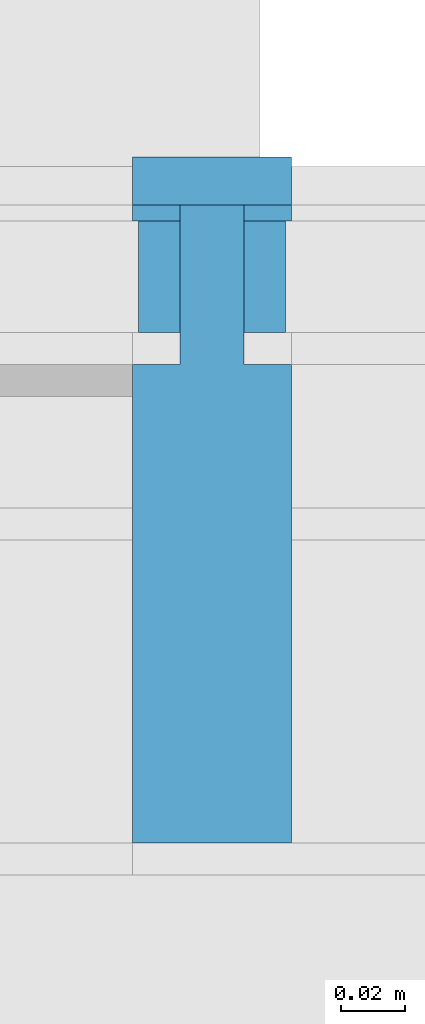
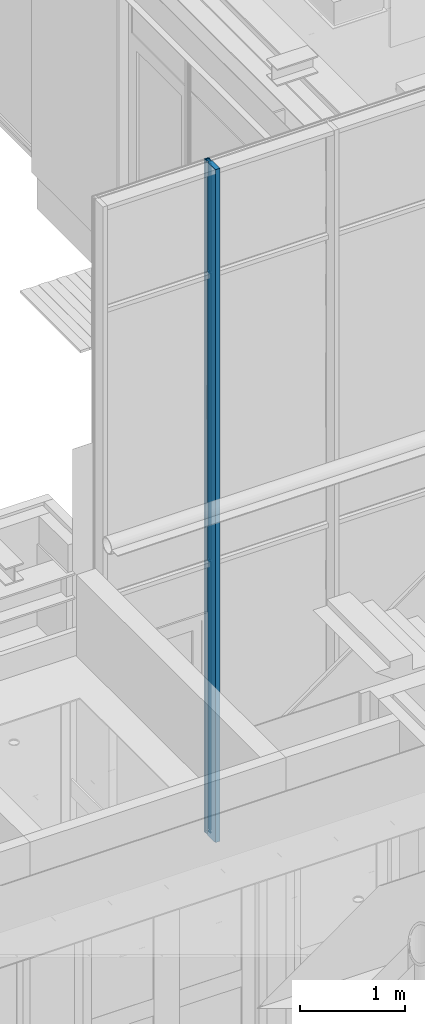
# One storey, part 98 of 347: 6 building element parts, 1 element without a shape of its own.
"""IFC2X3 building model written with IfcOpenShell, lengths in millimetres."""

from ifc_helpers import new_model, entity, si_unit, converted_unit, derived_unit, money_unit, direction, frame, origin_with_axes, place, context, subcontext, project, spatial, faceted_brep, material, type_object, element, aggregate, save


model = new_model("IFC2X3")

# Units and contexts
model_context = context("Model", 3, precision=0.01, world=origin_with_axes(), true_north=direction((0.0, 1.0)))
plan_context = context("Plan", 3, precision=0.01, world=origin_with_axes(), true_north=direction((0.0, 1.0)))
body_context = subcontext(model_context, "Body", "Model", "MODEL_VIEW")
ifc_project = project(units=[si_unit("LENGTHUNIT", "METRE", prefix="MILLI"), si_unit("AREAUNIT", "SQUARE_METRE"), si_unit("VOLUMEUNIT", "CUBIC_METRE"), converted_unit("PLANEANGLEUNIT", "DEGREE", entity("IfcPlaneAngleMeasure", 0.0174532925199), si_unit("PLANEANGLEUNIT", "RADIAN"), dimensions=[0, 0, 0, 0, 0, 0, 0]), money_unit("EUR"), converted_unit("TIMEUNIT", "Year", entity("IfcTimeMeasure", 31556926.0), si_unit("TIMEUNIT", "SECOND"), dimensions=[0, 0, 1, 0, 0, 0, 0]), si_unit("MASSUNIT", "GRAM", prefix="KILO"), si_unit("THERMODYNAMICTEMPERATUREUNIT", "DEGREE_CELSIUS"), si_unit("LUMINOUSINTENSITYUNIT", "LUMEN"), si_unit("ENERGYUNIT", "JOULE", prefix="MEGA"), derived_unit("THERMALCONDUCTANCEUNIT", [(si_unit("POWERUNIT", "WATT"), 1), (si_unit("LENGTHUNIT", "METRE"), -1), (si_unit("THERMODYNAMICTEMPERATUREUNIT", "KELVIN"), -1)]), derived_unit("SPECIFICHEATCAPACITYUNIT", [(si_unit("ENERGYUNIT", "JOULE"), 1), (si_unit("MASSUNIT", "GRAM", prefix="KILO"), -1), (si_unit("THERMODYNAMICTEMPERATUREUNIT", "KELVIN"), -1)]), derived_unit("MASSDENSITYUNIT", [(si_unit("MASSUNIT", "GRAM", prefix="KILO"), 1), (si_unit("VOLUMEUNIT", "CUBIC_METRE"), -1)])], contexts=[model_context, plan_context])

# Site, building, storey
site_placement = place(None, origin_with_axes())
site = spatial("IfcSite", under=ifc_project, at=site_placement, Name="Site", CompositionType="ELEMENT")
building_placement = place(site_placement, origin_with_axes())
building = spatial("IfcBuilding", under=site, at=building_placement, Name="Naam gebouw", CompositionType="ELEMENT")
storey_placement = place(building_placement, origin_with_axes())
storey = spatial("IfcBuildingStorey", under=building, at=storey_placement, Name="begane grond", CompositionType="ELEMENT", Elevation=0.0)

# Column, building element parts
column_type = type_object("IfcColumnType", Name="31 vliesgevelstijl 50 x 215", PredefinedType="COLUMN")
column_placement = place(storey_placement, frame((19890.0, 18400.0, 0.0), z_axis=(0.0, 0.0, 1.0), x_axis=(1.0, 0.0, 0.0)))
column = element("IfcColumn", 1, at=column_placement, inside=storey, type_object=column_type, Name="28_kolom ø 275mm", ObjectType="COLUMN")
ifc_material_1 = material(Name="Membraan - rubber")
building_element_part_1_placement = place(column_placement, origin_with_axes())
building_element_part_1 = element("IfcBuildingElementPart", 2, at=building_element_part_1_placement, material=ifc_material_1, Name="Membraan - rubber", context=body_context, shape_type="Brep", body=[
    faceted_brep([(-9.99999992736, 195.000000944, 7840.0), (-9.99999992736, 195.000000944, 7824.99999994), (-9.99999992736, 200.000001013, 7824.99999994), (-9.99999992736, 200.000000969, 7840.0), (-22.9999999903, 195.000000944, 7840.0), (-22.9999999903, 195.000000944, 7824.99999994), (-25.0, 195.000000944, 7824.99999994), (-25.0, 200.000001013, 7824.99999994), (-25.0, 200.000000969, 7840.0), (-25.0, 195.000000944, 7840.0)], [[[0, 1, 2, 3]], [[4, 5, 1, 0]], [[6, 7, 2, 1, 5]], [[3, 2, 7, 8]], [[3, 8, 9, 4, 0]], [[9, 6, 5, 4]], [[8, 7, 6, 9]]]),
    faceted_brep([(-25.0, 200.000000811, 14.9999997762), (-9.99999992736, 200.000000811, 14.9999997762), (-9.99999992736, 200.000000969, 0.0), (-25.0, 200.000000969, 0.0), (-9.99999992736, 195.000000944, 14.9999997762), (-25.0, 195.000000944, 14.9999997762), (-22.9999999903, 195.000000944, 14.9999997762), (-9.99999992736, 195.000000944, 0.0), (-22.9999999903, 195.000000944, 0.0), (-25.0, 195.000000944, 0.0)], [[[0, 1, 2, 3]], [[4, 1, 0, 5, 6]], [[1, 4, 7, 2]], [[8, 9, 3, 2, 7]], [[5, 0, 3, 9]], [[6, 5, 9, 8]], [[4, 6, 8, 7]]]),
    faceted_brep([(-25.0, 199.9999993, 3165.00000048), (-9.99999992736, 199.9999993, 3165.00000048), (-9.99999992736, 200.000000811, 35.0000005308), (-25.0, 200.000000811, 35.0000005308), (-9.99999992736, 195.000000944, 3165.00000048), (-25.0, 195.000000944, 3165.00000048), (-22.9999999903, 195.000000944, 3165.00000048), (-9.99999992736, 195.000000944, 35.0000005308), (-22.9999999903, 195.000000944, 35.0000005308), (-25.0, 195.000000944, 35.0000005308)], [[[0, 1, 2, 3]], [[4, 1, 0, 5, 6]], [[1, 4, 7, 2]], [[3, 2, 7, 8, 9]], [[5, 0, 3, 9]], [[6, 5, 9, 8]], [[4, 6, 8, 7]]]),
    faceted_brep([(-9.99999992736, 195.000000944, 6545.00000058), (-9.99999992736, 199.9999993, 6545.00000058), (-9.99999992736, 200.000001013, 7804.99999952), (-9.99999992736, 195.000000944, 7804.99999952), (-25.0, 199.9999993, 6545.00000058), (-22.9999999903, 195.000000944, 6545.00000058), (-25.0, 195.000000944, 6545.00000058), (-25.0, 200.000001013, 7804.99999952), (-25.0, 195.000000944, 7804.99999952), (-22.9999999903, 195.000000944, 7804.99999952)], [[[0, 1, 2, 3]], [[4, 1, 0, 5, 6]], [[1, 4, 7, 2]], [[3, 2, 7, 8, 9]], [[5, 0, 3, 9]], [[6, 5, 9, 8]], [[4, 6, 8, 7]]]),
    faceted_brep([(-9.99999992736, 195.000000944, 3185.00000058), (-9.99999992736, 199.9999993, 3185.00000058), (-9.99999992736, 199.9999993, 6525.00000048), (-9.99999992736, 195.000000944, 6525.00000048), (-25.0, 199.9999993, 3185.00000058), (-22.9999999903, 195.000000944, 3185.00000058), (-25.0, 195.000000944, 3185.00000058), (-25.0, 199.9999993, 6525.00000048), (-25.0, 195.000000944, 6525.00000048), (-22.9999999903, 195.000000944, 6525.00000048)], [[[0, 1, 2, 3]], [[4, 1, 0, 5, 6]], [[1, 4, 7, 2]], [[3, 2, 7, 8, 9]], [[5, 0, 3, 9]], [[6, 5, 9, 8]], [[4, 6, 8, 7]]]),
])
building_element_part_2_placement = place(column_placement, origin_with_axes())
building_element_part_2 = element("IfcBuildingElementPart", 3, at=building_element_part_2_placement, material=ifc_material_1, Name="Membraan - rubber", context=body_context, shape_type="Brep", body=[
    faceted_brep([(25.0000002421, 195.000000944, 7840.0), (25.0000002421, 195.000000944, 7824.99999994), (25.0000002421, 200.000001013, 7824.99999994), (25.0000002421, 200.000000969, 7840.0), (23.0000002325, 195.000000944, 7840.0), (23.0000002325, 195.000000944, 7824.99999994), (10.0000001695, 195.000000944, 7824.99999994), (10.0000001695, 200.000001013, 7824.99999994), (10.0000001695, 200.000000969, 7840.0), (10.0000001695, 195.000000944, 7840.0)], [[[0, 1, 2, 3]], [[4, 5, 1, 0]], [[6, 7, 2, 1, 5]], [[3, 2, 7, 8]], [[0, 3, 8, 9, 4]], [[9, 6, 5, 4]], [[8, 7, 6, 9]]]),
    faceted_brep([(10.0000001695, 200.000000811, 14.9999997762), (25.0000002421, 200.000000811, 14.9999997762), (25.0000002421, 200.000000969, 0.0), (10.0000001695, 200.000000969, 0.0), (25.0000002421, 195.000000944, 14.9999997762), (10.0000001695, 195.000000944, 14.9999997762), (23.0000002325, 195.000000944, 14.9999997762), (25.0000002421, 195.000000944, 0.0), (10.0000001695, 195.000000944, 0.0), (23.0000002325, 195.000000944, 0.0)], [[[0, 1, 2, 3]], [[4, 1, 0, 5, 6]], [[1, 4, 7, 2]], [[8, 3, 2, 7, 9]], [[5, 0, 3, 8]], [[6, 5, 8, 9]], [[4, 6, 9, 7]]]),
    faceted_brep([(10.0000001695, 199.9999993, 3165.00000048), (25.0000002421, 199.9999993, 3165.00000048), (25.0000002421, 200.000000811, 35.0000005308), (10.0000001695, 200.000000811, 35.0000005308), (25.0000002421, 195.000000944, 3165.00000048), (10.0000001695, 195.000000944, 3165.00000048), (23.0000002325, 195.000000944, 3165.00000048), (25.0000002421, 195.000000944, 35.0000005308), (23.0000002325, 195.000000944, 35.0000005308), (10.0000001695, 195.000000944, 35.0000005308)], [[[0, 1, 2, 3]], [[4, 1, 0, 5, 6]], [[1, 4, 7, 2]], [[3, 2, 7, 8, 9]], [[5, 0, 3, 9]], [[6, 5, 9, 8]], [[4, 6, 8, 7]]]),
    faceted_brep([(25.0000002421, 195.000000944, 6545.00000058), (25.0000002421, 199.9999993, 6545.00000058), (25.0000002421, 200.000001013, 7804.99999952), (25.0000002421, 195.000000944, 7804.99999952), (10.0000001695, 199.9999993, 6545.00000058), (23.0000002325, 195.000000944, 6545.00000058), (10.0000001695, 195.000000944, 6545.00000058), (10.0000001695, 200.000001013, 7804.99999952), (10.0000001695, 195.000000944, 7804.99999952), (23.0000002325, 195.000000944, 7804.99999952)], [[[0, 1, 2, 3]], [[4, 1, 0, 5, 6]], [[1, 4, 7, 2]], [[3, 2, 7, 8, 9]], [[5, 0, 3, 9]], [[6, 5, 9, 8]], [[4, 6, 8, 7]]]),
    faceted_brep([(25.0000002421, 195.000000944, 3185.00000058), (25.0000002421, 199.9999993, 3185.00000058), (25.0000002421, 199.9999993, 6525.00000048), (25.0000002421, 195.000000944, 6525.00000048), (10.0000001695, 199.9999993, 3185.00000058), (23.0000002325, 195.000000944, 3185.00000058), (10.0000001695, 195.000000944, 3185.00000058), (10.0000001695, 199.9999993, 6525.00000048), (10.0000001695, 195.000000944, 6525.00000048), (23.0000002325, 195.000000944, 6525.00000048)], [[[0, 1, 2, 3]], [[4, 1, 0, 5, 6]], [[1, 4, 7, 2]], [[3, 2, 7, 8, 9]], [[5, 0, 3, 9]], [[6, 5, 9, 8]], [[4, 6, 8, 7]]]),
])
building_element_part_3_placement = place(column_placement, origin_with_axes())
building_element_part_3 = element("IfcBuildingElementPart", 4, at=building_element_part_3_placement, material=ifc_material_1, Name="Membraan - rubber", context=body_context, shape_type="Brep", body=[
    faceted_brep([(23.0000002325, 160.000000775, 7840.0), (23.0000002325, 160.000000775, 7824.99999994), (23.0000002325, 195.000000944, 7824.99999994), (23.0000002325, 195.000000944, 7840.0), (10.0000001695, 160.000000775, 7840.0), (10.0000001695, 160.000000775, 7824.99999994), (10.0000001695, 195.000000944, 7824.99999994), (10.0000001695, 195.000000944, 7840.0)], [[[0, 1, 2, 3]], [[4, 5, 1, 0]], [[5, 6, 2, 1]], [[3, 2, 6, 7]], [[0, 3, 7, 4]], [[7, 6, 5, 4]]]),
    faceted_brep([(10.0000001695, 195.000000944, 14.9999997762), (23.0000002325, 195.000000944, 14.9999997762), (23.0000002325, 195.000000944, 0.0), (10.0000001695, 195.000000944, 0.0), (23.0000002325, 160.000000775, 14.9999997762), (10.0000001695, 160.000000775, 14.9999997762), (23.0000002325, 160.000000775, 0.0), (10.0000001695, 160.000000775, 0.0)], [[[0, 1, 2, 3]], [[4, 1, 0, 5]], [[1, 4, 6, 2]], [[7, 3, 2, 6]], [[5, 0, 3, 7]], [[4, 5, 7, 6]]]),
    faceted_brep([(10.0000001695, 195.000000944, 3165.00000048), (23.0000002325, 195.000000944, 3165.00000048), (23.0000002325, 195.000000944, 35.0000005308), (10.0000001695, 195.000000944, 35.0000005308), (23.0000002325, 160.000000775, 3165.00000048), (10.0000001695, 160.000000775, 3165.00000048), (23.0000002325, 160.000000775, 35.0000005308), (10.0000001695, 160.000000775, 35.0000005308)], [[[0, 1, 2, 3]], [[4, 1, 0, 5]], [[1, 4, 6, 2]], [[3, 2, 6, 7]], [[5, 0, 3, 7]], [[4, 5, 7, 6]]]),
    faceted_brep([(23.0000002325, 160.000000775, 6545.00000058), (23.0000002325, 195.000000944, 6545.00000058), (23.0000002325, 195.000000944, 7804.99999952), (23.0000002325, 160.000000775, 7804.99999952), (10.0000001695, 195.000000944, 6545.00000058), (10.0000001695, 160.000000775, 6545.00000058), (10.0000001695, 195.000000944, 7804.99999952), (10.0000001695, 160.000000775, 7804.99999952)], [[[0, 1, 2, 3]], [[4, 1, 0, 5]], [[1, 4, 6, 2]], [[3, 2, 6, 7]], [[5, 0, 3, 7]], [[4, 5, 7, 6]]]),
    faceted_brep([(23.0000002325, 160.000000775, 3185.00000058), (23.0000002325, 195.000000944, 3185.00000058), (23.0000002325, 195.000000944, 6525.00000048), (23.0000002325, 160.000000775, 6525.00000048), (10.0000001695, 195.000000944, 3185.00000058), (10.0000001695, 160.000000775, 3185.00000058), (10.0000001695, 195.000000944, 6525.00000048), (10.0000001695, 160.000000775, 6525.00000048)], [[[0, 1, 2, 3]], [[4, 1, 0, 5]], [[1, 4, 6, 2]], [[3, 2, 6, 7]], [[5, 0, 3, 7]], [[4, 5, 7, 6]]]),
])
building_element_part_4_placement = place(column_placement, origin_with_axes())
building_element_part_4 = element("IfcBuildingElementPart", 5, at=building_element_part_4_placement, material=ifc_material_1, Name="Membraan - rubber", context=body_context, shape_type="Brep", body=[
    faceted_brep([(-9.99999992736, 160.000000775, 7840.0), (-9.99999992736, 160.000000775, 7824.99999994), (-9.99999992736, 195.000000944, 7824.99999994), (-9.99999992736, 195.000000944, 7840.0), (-22.9999999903, 160.000000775, 7840.0), (-22.9999999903, 160.000000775, 7824.99999994), (-22.9999999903, 195.000000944, 7824.99999994), (-22.9999999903, 195.000000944, 7840.0)], [[[0, 1, 2, 3]], [[4, 5, 1, 0]], [[5, 6, 2, 1]], [[3, 2, 6, 7]], [[0, 3, 7, 4]], [[7, 6, 5, 4]]]),
    faceted_brep([(-22.9999999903, 195.000000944, 14.9999997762), (-9.99999992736, 195.000000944, 14.9999997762), (-9.99999992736, 195.000000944, 0.0), (-22.9999999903, 195.000000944, 0.0), (-9.99999992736, 160.000000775, 14.9999997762), (-22.9999999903, 160.000000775, 14.9999997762), (-9.99999992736, 160.000000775, 0.0), (-22.9999999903, 160.000000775, 0.0)], [[[0, 1, 2, 3]], [[4, 1, 0, 5]], [[1, 4, 6, 2]], [[7, 3, 2, 6]], [[5, 0, 3, 7]], [[4, 5, 7, 6]]]),
    faceted_brep([(-22.9999999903, 195.000000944, 3165.00000048), (-9.99999992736, 195.000000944, 3165.00000048), (-9.99999992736, 195.000000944, 35.0000005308), (-22.9999999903, 195.000000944, 35.0000005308), (-9.99999992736, 160.000000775, 3165.00000048), (-22.9999999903, 160.000000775, 3165.00000048), (-9.99999992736, 160.000000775, 35.0000005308), (-22.9999999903, 160.000000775, 35.0000005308)], [[[0, 1, 2, 3]], [[4, 1, 0, 5]], [[1, 4, 6, 2]], [[3, 2, 6, 7]], [[5, 0, 3, 7]], [[4, 5, 7, 6]]]),
    faceted_brep([(-9.99999992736, 160.000000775, 6545.00000058), (-9.99999992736, 195.000000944, 6545.00000058), (-9.99999992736, 195.000000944, 7804.99999952), (-9.99999992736, 160.000000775, 7804.99999952), (-22.9999999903, 195.000000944, 6545.00000058), (-22.9999999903, 160.000000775, 6545.00000058), (-22.9999999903, 195.000000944, 7804.99999952), (-22.9999999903, 160.000000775, 7804.99999952)], [[[0, 1, 2, 3]], [[4, 1, 0, 5]], [[1, 4, 6, 2]], [[3, 2, 6, 7]], [[5, 0, 3, 7]], [[4, 5, 7, 6]]]),
    faceted_brep([(-9.99999992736, 160.000000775, 3185.00000058), (-9.99999992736, 195.000000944, 3185.00000058), (-9.99999992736, 195.000000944, 6525.00000048), (-9.99999992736, 160.000000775, 6525.00000048), (-22.9999999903, 195.000000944, 3185.00000058), (-22.9999999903, 160.000000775, 3185.00000058), (-22.9999999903, 195.000000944, 6525.00000048), (-22.9999999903, 160.000000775, 6525.00000048)], [[[0, 1, 2, 3]], [[4, 1, 0, 5]], [[1, 4, 6, 2]], [[3, 2, 6, 7]], [[5, 0, 3, 7]], [[4, 5, 7, 6]]]),
])
ifc_material_2 = material(Name="Metaal - Aluminium")
building_element_part_5_placement = place(column_placement, origin_with_axes())
building_element_part_5 = element("IfcBuildingElementPart", 6, at=building_element_part_5_placement, material=ifc_material_2, Name="Metaal - Aluminium", context=body_context, shape_type="Brep", body=[
    faceted_brep([(25.0000010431, 0.0, 7840.0), (-25.0, 0.0, 7840.0), (-25.0, 0.0, 0.0), (25.0000010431, 0.0, 0.0), (-10.0000009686, 149.999999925, 7840.0), (-25.0, 149.999999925, 7840.0), (25.0000010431, 149.999999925, 7840.0), (9.99999880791, 149.999999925, 7840.0), (9.99999880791, 200.000000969, 7840.0), (-10.0000009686, 200.000000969, 7840.0), (-25.0, 149.999999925, 0.0), (25.0000010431, 149.999999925, 0.0), (-10.0000009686, 149.999999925, 0.0), (-10.0000009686, 200.000000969, 0.0), (9.99999880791, 200.000000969, 0.0), (9.99999880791, 149.999999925, 0.0)], [[[0, 1, 2, 3]], [[4, 5, 1, 0, 6, 7, 8, 9]], [[1, 5, 10, 2]], [[11, 3, 2, 10, 12, 13, 14, 15]], [[6, 0, 3, 11]], [[5, 4, 12, 10]], [[7, 6, 11, 15]], [[8, 7, 15, 14]], [[9, 8, 14, 13]], [[4, 9, 13, 12]]]),
])
building_element_part_6_placement = place(column_placement, origin_with_axes())
building_element_part_6 = element("IfcBuildingElementPart", 7, at=building_element_part_6_placement, material=ifc_material_2, Name="Metaal - Aluminium", context=body_context, shape_type="Brep", body=[
    faceted_brep([(-25.0, 215.0, 7840.0), (-25.0, 215.0, 0.0), (-25.0, 200.0, 0.0), (-25.0, 200.0, 7840.0), (25.0, 215.0, 7840.0), (25.0, 215.0, 0.0), (25.0, 200.0, 0.0), (25.0, 200.0, 7840.0)], [[[0, 1, 2, 3]], [[4, 5, 1, 0]], [[2, 1, 5, 6]], [[3, 2, 6, 7]], [[4, 0, 3, 7]], [[7, 6, 5, 4]]]),
])
aggregate(column, [building_element_part_1, building_element_part_2, building_element_part_3, building_element_part_4, building_element_part_5, building_element_part_6])

save(model, "model.ifc")
